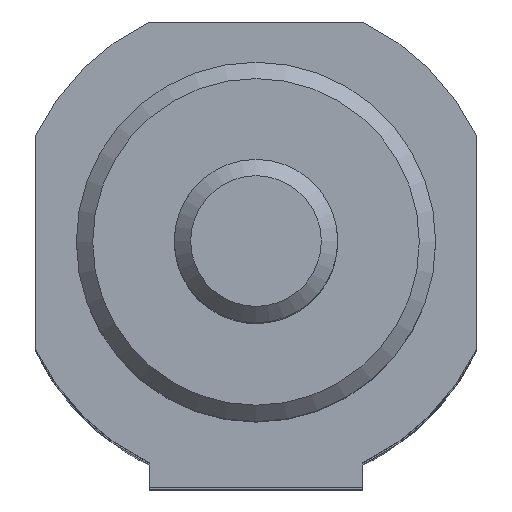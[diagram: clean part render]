
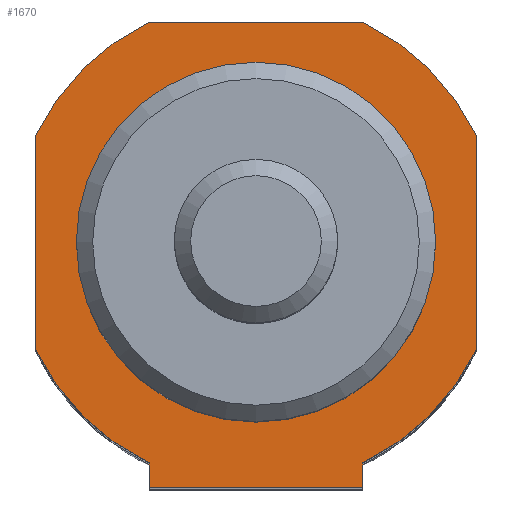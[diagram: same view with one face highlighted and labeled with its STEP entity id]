
A CAD part, top view. The second image highlights one B-rep face of the part: STEP entity #1670.
In plain terms, the highlighted planar face has unit normal (0, 0, 1).
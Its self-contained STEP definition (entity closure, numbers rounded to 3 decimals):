
#101=CARTESIAN_POINT('',(6.538,-15.,111.0));
#102=VERTEX_POINT('',#101);
#103=CARTESIAN_POINT('',(-6.538,-15.,111.0));
#104=VERTEX_POINT('',#103);
#105=CARTESIAN_POINT('',(6.538,-15.,111.0));
#106=DIRECTION('',(-1.0,0.0,0.0));
#107=VECTOR('',#106,13.077);
#108=LINE('',#105,#107);
#109=EDGE_CURVE('',#102,#104,#108,.T.);
#257=CARTESIAN_POINT('',(-6.538,-13.5,111.0));
#258=VERTEX_POINT('',#257);
#272=CARTESIAN_POINT('',(-6.538,-13.5,111.0));
#273=DIRECTION('',(0.0,-1.0,0.0));
#274=VECTOR('',#273,1.5);
#275=LINE('',#272,#274);
#276=EDGE_CURVE('',#258,#104,#275,.T.);
#288=CARTESIAN_POINT('',(6.538,-13.5,111.0));
#289=VERTEX_POINT('',#288);
#296=CARTESIAN_POINT('',(6.538,-13.5,111.0));
#297=DIRECTION('',(0.0,-1.0,0.0));
#298=VECTOR('',#297,1.5);
#299=LINE('',#296,#298);
#300=EDGE_CURVE('',#289,#102,#299,.T.);
#1398=CARTESIAN_POINT('',(11.0,0.,111.0));
#1399=VERTEX_POINT('',#1398);
#1400=CARTESIAN_POINT('',(0.0,0.0,111.0));
#1401=DIRECTION('',(0.0,0.0,-1.0));
#1402=DIRECTION('',(-1.0,0.0,0.0));
#1403=AXIS2_PLACEMENT_3D('',#1400,#1401,#1402);
#1404=CIRCLE('',#1403,11.0);
#1405=EDGE_CURVE('',#1399,#1399,#1404,.T.);
#1490=CARTESIAN_POINT('',(-6.538,13.5,111.0));
#1491=VERTEX_POINT('',#1490);
#1492=CARTESIAN_POINT('',(6.538,13.5,111.0));
#1493=VERTEX_POINT('',#1492);
#1494=CARTESIAN_POINT('',(-6.538,13.5,111.0));
#1495=DIRECTION('',(1.0,0.0,0.0));
#1496=VECTOR('',#1495,13.077);
#1497=LINE('',#1494,#1496);
#1498=EDGE_CURVE('',#1491,#1493,#1497,.T.);
#1521=CARTESIAN_POINT('',(13.5,6.538,111.0));
#1522=VERTEX_POINT('',#1521);
#1523=CARTESIAN_POINT('',(0.,0.,111.0));
#1524=DIRECTION('',(0.,0.,-1.0));
#1525=DIRECTION('',(0.9,0.436,0.));
#1526=AXIS2_PLACEMENT_3D('',#1523,#1524,#1525);
#1527=CIRCLE('',#1526,15.);
#1528=EDGE_CURVE('',#1493,#1522,#1527,.T.);
#1546=CARTESIAN_POINT('',(13.5,-6.538,111.0));
#1547=VERTEX_POINT('',#1546);
#1548=CARTESIAN_POINT('',(13.5,6.538,111.0));
#1549=DIRECTION('',(0.0,-1.0,0.0));
#1550=VECTOR('',#1549,13.077);
#1551=LINE('',#1548,#1550);
#1552=EDGE_CURVE('',#1522,#1547,#1551,.T.);
#1570=CARTESIAN_POINT('',(0.,0.,111.0));
#1571=DIRECTION('',(0.,0.,-1.0));
#1572=DIRECTION('',(0.436,-0.9,0.));
#1573=AXIS2_PLACEMENT_3D('',#1570,#1571,#1572);
#1574=CIRCLE('',#1573,15.);
#1575=EDGE_CURVE('',#1547,#289,#1574,.T.);
#1588=CARTESIAN_POINT('',(-13.5,-6.538,111.0));
#1589=VERTEX_POINT('',#1588);
#1590=CARTESIAN_POINT('',(0.,0.,111.0));
#1591=DIRECTION('',(0.,0.,-1.0));
#1592=DIRECTION('',(-0.9,-0.436,0.));
#1593=AXIS2_PLACEMENT_3D('',#1590,#1591,#1592);
#1594=CIRCLE('',#1593,15.);
#1595=EDGE_CURVE('',#258,#1589,#1594,.T.);
#1613=CARTESIAN_POINT('',(-13.5,6.538,111.0));
#1614=VERTEX_POINT('',#1613);
#1615=CARTESIAN_POINT('',(-13.5,-6.538,111.0));
#1616=DIRECTION('',(0.0,1.0,0.0));
#1617=VECTOR('',#1616,13.077);
#1618=LINE('',#1615,#1617);
#1619=EDGE_CURVE('',#1589,#1614,#1618,.T.);
#1637=CARTESIAN_POINT('',(0.,0.,111.0));
#1638=DIRECTION('',(0.,0.,-1.0));
#1639=DIRECTION('',(-0.436,0.9,0.));
#1640=AXIS2_PLACEMENT_3D('',#1637,#1638,#1639);
#1641=CIRCLE('',#1640,15.);
#1642=EDGE_CURVE('',#1614,#1491,#1641,.T.);
#1650=CARTESIAN_POINT('',(0.,0.0,111.0));
#1651=DIRECTION('',(0.0,0.0,1.0));
#1652=DIRECTION('',(1.0,0.0,0.0));
#1653=AXIS2_PLACEMENT_3D('',#1650,#1651,#1652);
#1654=PLANE('',#1653);
#1655=ORIENTED_EDGE('',*,*,#1498,.F.);
#1656=ORIENTED_EDGE('',*,*,#1642,.F.);
#1657=ORIENTED_EDGE('',*,*,#1619,.F.);
#1658=ORIENTED_EDGE('',*,*,#1595,.F.);
#1659=ORIENTED_EDGE('',*,*,#276,.T.);
#1660=ORIENTED_EDGE('',*,*,#109,.F.);
#1661=ORIENTED_EDGE('',*,*,#300,.F.);
#1662=ORIENTED_EDGE('',*,*,#1575,.F.);
#1663=ORIENTED_EDGE('',*,*,#1552,.F.);
#1664=ORIENTED_EDGE('',*,*,#1528,.F.);
#1665=EDGE_LOOP('',(#1655,#1656,#1657,#1658,#1659,#1660,#1661,#1662,#1663,#1664));
#1666=FACE_OUTER_BOUND('',#1665,.T.);
#1667=ORIENTED_EDGE('',*,*,#1405,.T.);
#1668=EDGE_LOOP('',(#1667));
#1669=FACE_BOUND('',#1668,.T.);
#1670=ADVANCED_FACE('',(#1666,#1669),#1654,.T.);
